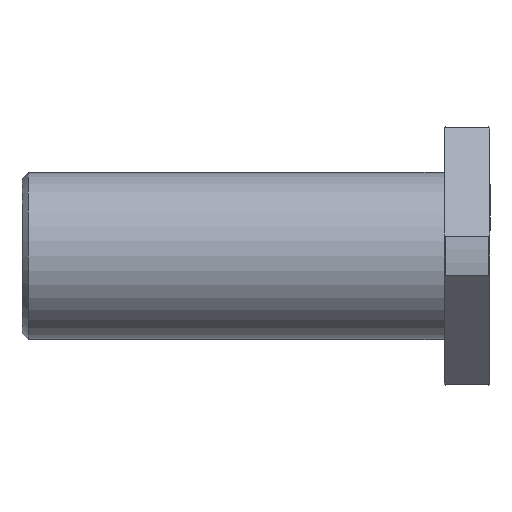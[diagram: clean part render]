
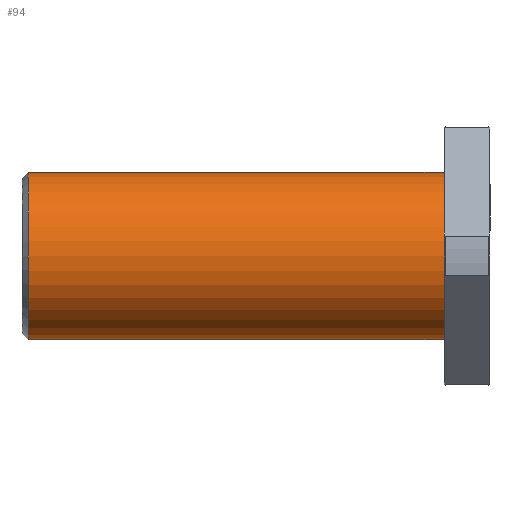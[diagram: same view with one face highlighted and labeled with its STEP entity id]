
A CAD part, front view. The second image highlights one B-rep face of the part: STEP entity #94.
In plain terms, the highlighted cylindrical face has radius 20 mm (diameter 40 mm), a full revolution.
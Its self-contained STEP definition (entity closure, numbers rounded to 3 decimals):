
#94=ADVANCED_FACE('',(#171,#172),#173,.T.);
#171=FACE_OUTER_BOUND('',#265,.T.);
#172=FACE_OUTER_BOUND('',#266,.T.);
#173=CYLINDRICAL_SURFACE('',#267,20.0);
#265=EDGE_LOOP('',(#427));
#266=EDGE_LOOP('',(#428));
#267=AXIS2_PLACEMENT_3D('',#429,#430,#431);
#427=ORIENTED_EDGE('',*,*,#554,.F.);
#428=ORIENTED_EDGE('',*,*,#586,.T.);
#429=CARTESIAN_POINT('',(-11.0,0.,0.0));
#430=DIRECTION('',(1.0,-0.0,-0.0));
#431=DIRECTION('',(0.0,0.0,1.0));
#554=EDGE_CURVE('',#638,#638,#639,.T.);
#586=EDGE_CURVE('',#698,#698,#699,.T.);
#638=VERTEX_POINT('',#779);
#639=CIRCLE('',#780,20.0);
#698=VERTEX_POINT('',#854);
#699=CIRCLE('',#855,20.0);
#779=CARTESIAN_POINT('',(-11.0,0.,-20.0));
#780=AXIS2_PLACEMENT_3D('',#940,#941,#942);
#854=CARTESIAN_POINT('',(-110.5,0.,-20.0));
#855=AXIS2_PLACEMENT_3D('',#1015,#1016,#1017);
#940=CARTESIAN_POINT('',(-11.0,0.,0.0));
#941=DIRECTION('',(1.0,0.0,0.0));
#942=DIRECTION('',(0.0,0.0,-1.0));
#1015=CARTESIAN_POINT('',(-110.5,0.,0.0));
#1016=DIRECTION('',(1.0,0.0,0.0));
#1017=DIRECTION('',(0.0,0.0,-1.0));
